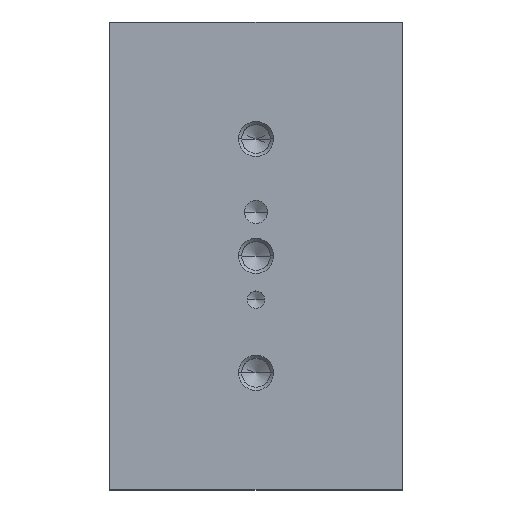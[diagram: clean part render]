
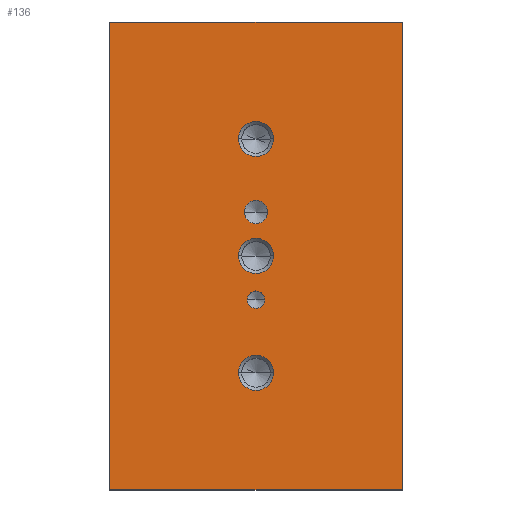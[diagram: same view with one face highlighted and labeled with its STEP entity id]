
A CAD part, top view. The second image highlights one B-rep face of the part: STEP entity #136.
In plain terms, the highlighted planar face has unit normal (0, 0, 1).
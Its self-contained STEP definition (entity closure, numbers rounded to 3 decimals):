
#136=ADVANCED_FACE('',(#274,#275,#276,#277,#278,#279),#280,.T.);
#274=FACE_BOUND('',#413,.T.);
#275=FACE_BOUND('',#414,.T.);
#276=FACE_BOUND('',#415,.T.);
#277=FACE_BOUND('',#416,.T.);
#278=FACE_BOUND('',#417,.T.);
#279=FACE_OUTER_BOUND('',#418,.T.);
#280=PLANE('',#419);
#413=EDGE_LOOP('',(#708,#709));
#414=EDGE_LOOP('',(#710,#711));
#415=EDGE_LOOP('',(#712,#713));
#416=EDGE_LOOP('',(#714,#715));
#417=EDGE_LOOP('',(#716,#717));
#418=EDGE_LOOP('',(#718,#719,#720,#721));
#419=AXIS2_PLACEMENT_3D('',#722,#723,#724);
#708=ORIENTED_EDGE('',*,*,#828,.T.);
#709=ORIENTED_EDGE('',*,*,#842,.T.);
#710=ORIENTED_EDGE('',*,*,#810,.T.);
#711=ORIENTED_EDGE('',*,*,#851,.T.);
#712=ORIENTED_EDGE('',*,*,#792,.T.);
#713=ORIENTED_EDGE('',*,*,#860,.T.);
#714=ORIENTED_EDGE('',*,*,#779,.T.);
#715=ORIENTED_EDGE('',*,*,#867,.T.);
#716=ORIENTED_EDGE('',*,*,#770,.T.);
#717=ORIENTED_EDGE('',*,*,#870,.T.);
#718=ORIENTED_EDGE('',*,*,#872,.T.);
#719=ORIENTED_EDGE('',*,*,#873,.T.);
#720=ORIENTED_EDGE('',*,*,#874,.T.);
#721=ORIENTED_EDGE('',*,*,#875,.T.);
#722=CARTESIAN_POINT('',(0.0,0.0,0.0));
#723=DIRECTION('',(0.0,0.0,1.0));
#724=DIRECTION('',(1.0,0.0,0.0));
#770=EDGE_CURVE('',#892,#896,#898,.T.);
#779=EDGE_CURVE('',#906,#910,#912,.T.);
#792=EDGE_CURVE('',#928,#930,#932,.T.);
#810=EDGE_CURVE('',#957,#959,#961,.T.);
#828=EDGE_CURVE('',#986,#988,#990,.T.);
#842=EDGE_CURVE('',#988,#986,#1009,.T.);
#851=EDGE_CURVE('',#959,#957,#1018,.T.);
#860=EDGE_CURVE('',#930,#928,#1027,.T.);
#867=EDGE_CURVE('',#910,#906,#1034,.T.);
#870=EDGE_CURVE('',#896,#892,#1037,.T.);
#872=EDGE_CURVE('',#1039,#1040,#1041,.T.);
#873=EDGE_CURVE('',#1040,#1042,#1043,.T.);
#874=EDGE_CURVE('',#1042,#1044,#1045,.T.);
#875=EDGE_CURVE('',#1044,#1039,#1046,.T.);
#892=VERTEX_POINT('',#1067);
#896=VERTEX_POINT('',#1072);
#898=CIRCLE('',#1075,1.5);
#906=VERTEX_POINT('',#1085);
#910=VERTEX_POINT('',#1090);
#912=CIRCLE('',#1093,2.0);
#928=VERTEX_POINT('',#1113);
#930=VERTEX_POINT('',#1116);
#932=CIRCLE('',#1119,3.0);
#957=VERTEX_POINT('',#1150);
#959=VERTEX_POINT('',#1153);
#961=CIRCLE('',#1156,3.0);
#986=VERTEX_POINT('',#1187);
#988=VERTEX_POINT('',#1190);
#990=CIRCLE('',#1193,3.0);
#1009=CIRCLE('',#1216,3.0);
#1018=CIRCLE('',#1225,3.0);
#1027=CIRCLE('',#1234,3.0);
#1034=CIRCLE('',#1241,2.0);
#1037=CIRCLE('',#1244,1.5);
#1039=VERTEX_POINT('',#1246);
#1040=VERTEX_POINT('',#1247);
#1041=LINE('',#1248,#1249);
#1042=VERTEX_POINT('',#1250);
#1043=LINE('',#1251,#1252);
#1044=VERTEX_POINT('',#1253);
#1045=LINE('',#1254,#1255);
#1046=LINE('',#1256,#1257);
#1067=CARTESIAN_POINT('',(1.5,-7.5,0.0));
#1072=CARTESIAN_POINT('',(-1.5,-7.5,0.0));
#1075=AXIS2_PLACEMENT_3D('',#1289,#1290,#1291);
#1085=CARTESIAN_POINT('',(2.0,7.5,0.0));
#1090=CARTESIAN_POINT('',(-2.0,7.5,0.0));
#1093=AXIS2_PLACEMENT_3D('',#1302,#1303,#1304);
#1113=CARTESIAN_POINT('',(3.0,20.0,0.0));
#1116=CARTESIAN_POINT('',(-3.0,20.0,0.0));
#1119=AXIS2_PLACEMENT_3D('',#1320,#1321,#1322);
#1150=CARTESIAN_POINT('',(3.0,0.0,0.0));
#1153=CARTESIAN_POINT('',(-3.0,0.,0.0));
#1156=AXIS2_PLACEMENT_3D('',#1346,#1347,#1348);
#1187=CARTESIAN_POINT('',(3.0,-20.0,0.0));
#1190=CARTESIAN_POINT('',(-3.0,-20.0,0.0));
#1193=AXIS2_PLACEMENT_3D('',#1372,#1373,#1374);
#1216=AXIS2_PLACEMENT_3D('',#1391,#1392,#1393);
#1225=AXIS2_PLACEMENT_3D('',#1403,#1404,#1405);
#1234=AXIS2_PLACEMENT_3D('',#1415,#1416,#1417);
#1241=AXIS2_PLACEMENT_3D('',#1424,#1425,#1426);
#1244=AXIS2_PLACEMENT_3D('',#1427,#1428,#1429);
#1246=CARTESIAN_POINT('',(25.0,-40.0,0.0));
#1247=CARTESIAN_POINT('',(25.0,40.0,0.0));
#1248=CARTESIAN_POINT('',(25.0,0.0,0.0));
#1249=VECTOR('',#1430,1.0);
#1250=CARTESIAN_POINT('',(-25.0,40.0,0.0));
#1251=CARTESIAN_POINT('',(0.0,40.0,0.0));
#1252=VECTOR('',#1431,1.0);
#1253=CARTESIAN_POINT('',(-25.0,-40.0,0.0));
#1254=CARTESIAN_POINT('',(-25.0,0.0,0.0));
#1255=VECTOR('',#1432,1.0);
#1256=CARTESIAN_POINT('',(0.0,-40.0,0.0));
#1257=VECTOR('',#1433,1.0);
#1289=CARTESIAN_POINT('',(0.0,-7.5,0.0));
#1290=DIRECTION('',(0.0,0.0,-1.0));
#1291=DIRECTION('',(1.0,0.0,0.0));
#1302=CARTESIAN_POINT('',(0.0,7.5,0.0));
#1303=DIRECTION('',(0.0,0.0,-1.0));
#1304=DIRECTION('',(1.0,0.0,0.0));
#1320=CARTESIAN_POINT('',(0.0,20.0,0.0));
#1321=DIRECTION('',(0.0,0.0,-1.0));
#1322=DIRECTION('',(1.0,0.0,0.0));
#1346=CARTESIAN_POINT('',(0.0,0.0,0.0));
#1347=DIRECTION('',(0.0,0.0,-1.0));
#1348=DIRECTION('',(1.0,0.0,0.0));
#1372=CARTESIAN_POINT('',(0.0,-20.0,0.0));
#1373=DIRECTION('',(0.0,0.0,-1.0));
#1374=DIRECTION('',(1.0,0.0,0.0));
#1391=CARTESIAN_POINT('',(0.0,-20.0,0.0));
#1392=DIRECTION('',(0.0,0.0,-1.0));
#1393=DIRECTION('',(1.0,0.0,0.0));
#1403=CARTESIAN_POINT('',(0.0,0.0,0.0));
#1404=DIRECTION('',(0.0,0.0,-1.0));
#1405=DIRECTION('',(1.0,0.0,0.0));
#1415=CARTESIAN_POINT('',(0.0,20.0,0.0));
#1416=DIRECTION('',(0.0,0.0,-1.0));
#1417=DIRECTION('',(1.0,0.0,0.0));
#1424=CARTESIAN_POINT('',(0.0,7.5,0.0));
#1425=DIRECTION('',(0.0,0.0,-1.0));
#1426=DIRECTION('',(1.0,0.0,0.0));
#1427=CARTESIAN_POINT('',(0.0,-7.5,0.0));
#1428=DIRECTION('',(0.0,0.0,-1.0));
#1429=DIRECTION('',(1.0,0.0,0.0));
#1430=DIRECTION('',(0.0,1.0,0.0));
#1431=DIRECTION('',(-1.0,0.0,0.0));
#1432=DIRECTION('',(0.0,-1.0,0.0));
#1433=DIRECTION('',(1.0,0.0,0.0));
